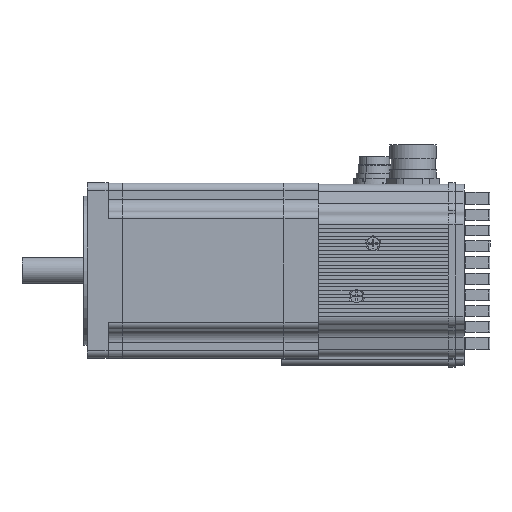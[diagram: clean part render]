
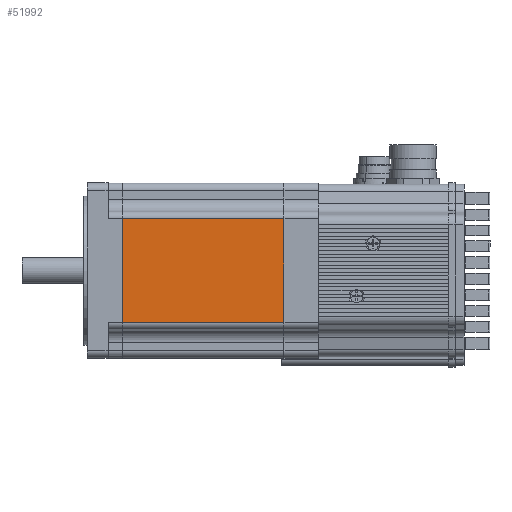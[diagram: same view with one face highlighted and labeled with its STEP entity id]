
A CAD part, left-side view. The second image highlights one B-rep face of the part: STEP entity #51992.
In plain terms, the highlighted planar face has unit normal (-1, 0, 0) as drawn and (0, -1, 0) by its records, which use the part's own axes.
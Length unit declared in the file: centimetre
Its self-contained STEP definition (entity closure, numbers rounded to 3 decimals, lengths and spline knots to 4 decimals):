
#5926=VECTOR('',#82037,1.);
#5927=VECTOR('',#82041,1.);
#5928=VECTOR('',#82042,1.);
#5929=VECTOR('',#82043,1.);
#10428=LINE('',#70422,#5926);
#10429=LINE('',#70426,#5927);
#10430=LINE('',#70428,#5928);
#10431=LINE('',#70430,#5929);
#11837=PLANE('',#56169);
#17518=VERTEX_POINT('',#70421);
#17519=VERTEX_POINT('',#70423);
#17520=VERTEX_POINT('',#70427);
#17521=VERTEX_POINT('',#70429);
#27154=EDGE_CURVE('',#17519,#17518,#10428,.T.);
#27156=EDGE_CURVE('',#17518,#17520,#10429,.T.);
#27157=EDGE_CURVE('',#17521,#17520,#10430,.T.);
#27158=EDGE_CURVE('',#17521,#17519,#10431,.T.);
#42187=ORIENTED_EDGE('',*,*,#27156,.T.);
#42188=ORIENTED_EDGE('',*,*,#27157,.F.);
#42189=ORIENTED_EDGE('',*,*,#27158,.T.);
#42190=ORIENTED_EDGE('',*,*,#27154,.T.);
#45758=EDGE_LOOP('',(#42187,#42188,#42189,#42190));
#49111=FACE_BOUND('',#45758,.T.);
#51992=ADVANCED_FACE('',(#49111),#11837,.T.);
#56169=AXIS2_PLACEMENT_3D('',#70425,#82040,$);
#70421=CARTESIAN_POINT('',(-2.5477,-4.3,-8.8214));
#70422=CARTESIAN_POINT('',(-2.5477,-4.3,-0.889));
#70423=CARTESIAN_POINT('',(-2.5477,-4.3,-0.889));
#70425=CARTESIAN_POINT('',(0.,-4.3,-0.889));
#70426=CARTESIAN_POINT('',(2.5477,-4.3,-8.8214));
#70427=CARTESIAN_POINT('',(2.5477,-4.3,-8.8214));
#70428=CARTESIAN_POINT('',(2.5477,-4.3,-0.889));
#70429=CARTESIAN_POINT('',(2.5477,-4.3,-0.889));
#70430=CARTESIAN_POINT('',(2.5477,-4.3,-0.889));
#82037=DIRECTION('',(0.,0.,-1.));
#82040=DIRECTION('',(0.,-1.,0.));
#82041=DIRECTION('',(1.,0.,0.));
#82042=DIRECTION('',(0.,0.,-1.));
#82043=DIRECTION('',(-1.,0.,0.));
